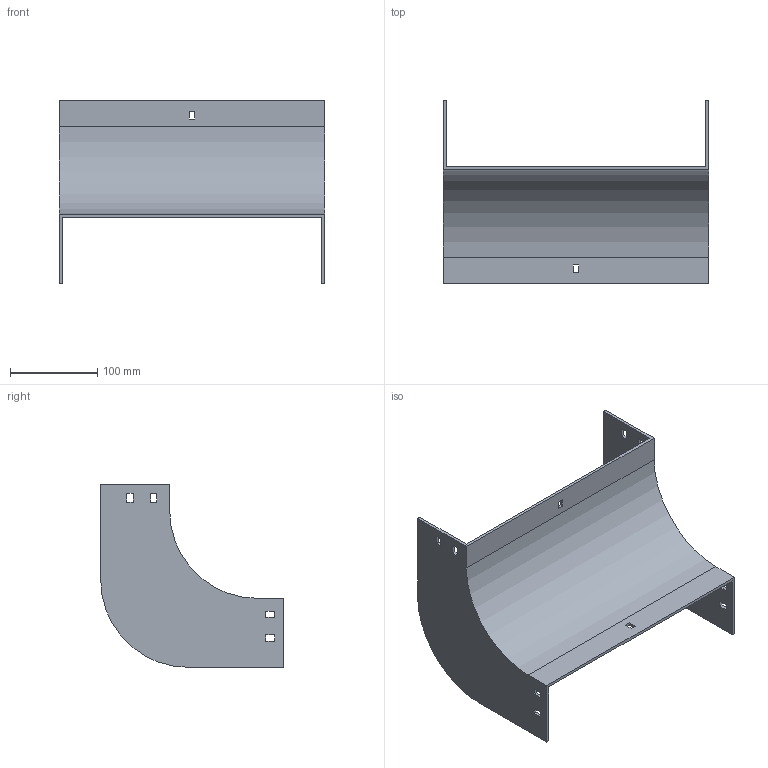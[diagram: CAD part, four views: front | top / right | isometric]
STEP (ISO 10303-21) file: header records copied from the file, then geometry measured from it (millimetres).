
FILE_DESCRIPTION (( 'STEP AP214' ), '1' );
FILE_NAME ('33F1C300.step', '2025-02-21T12:53:11', ( '' ), ( '' ), 'SwSTEP 2.0', 'SolidWorks 2023', '' );
FILE_SCHEMA (( 'AUTOMOTIVE_DESIGN' ));
Length unit declared in the file: millimetre
Products named in the file (1): 33F1C300
Bounding box: 304 x 209 x 209 mm (x, y, z)
Volume: 413609.3 mm3; surface area: 243308.5 mm2
Topology: 1 solids, 1 shells, 58 faces, 168 edges, 112 vertices
Faces by surface type: plane 54, cylinder 4
Entity records: 1943 total; most frequent: CARTESIAN_POINT 339, ORIENTED_EDGE 336, DIRECTION 294, EDGE_CURVE 168, VECTOR 160, LINE 160, VERTEX_POINT 112, EDGE_LOOP 78
